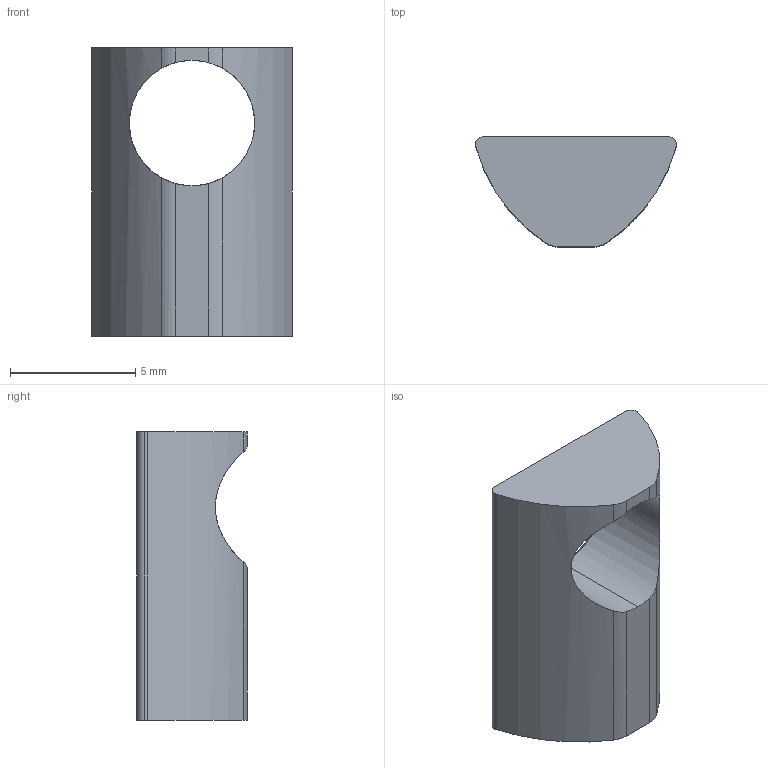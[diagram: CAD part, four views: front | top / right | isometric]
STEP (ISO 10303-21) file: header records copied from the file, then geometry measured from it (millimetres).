
FILE_DESCRIPTION (( 'STEP AP203' ), '1' );
FILE_NAME ('MN-M5-Q25.step', '2015-02-12T21:16:25', ( 'Turck User' ), ( '' ), 'SwSTEP 2.0', 'SolidWorks 2014', '' );
FILE_SCHEMA (( 'CONFIG_CONTROL_DESIGN' ));
Length unit declared in the file: millimetre
Products named in the file (2): MN-M5-Q25
Bounding box: 8.02 x 4.4 x 11.5 mm (x, y, z)
Volume: 219.9 mm3; surface area: 307.1 mm2
Topology: 1 solids, 1 shells, 18 faces, 49 edges, 32 vertices
Faces by surface type: cylinder 11, plane 5, cone 2
Entity records: 788 total; most frequent: CARTESIAN_POINT 163, DIRECTION 105, ORIENTED_EDGE 98, EDGE_CURVE 49, AXIS2_PLACEMENT_3D 42, VERTEX_POINT 32, CIRCLE 22, VECTOR 21
